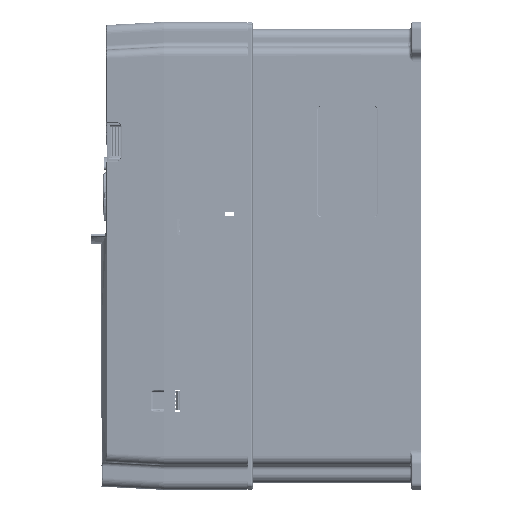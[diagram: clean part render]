
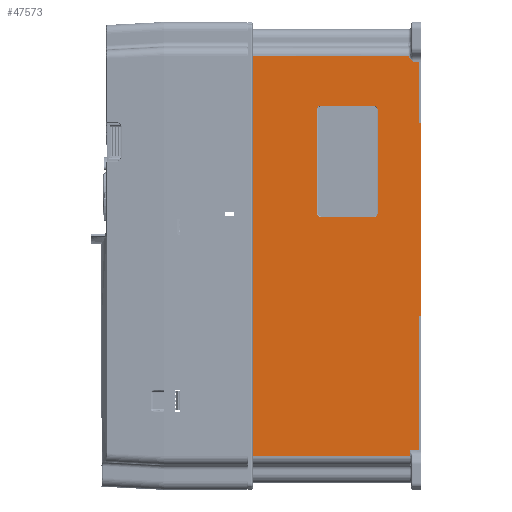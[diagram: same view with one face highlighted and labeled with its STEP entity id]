
A CAD part, left-side view. The second image highlights one B-rep face of the part: STEP entity #47573.
In plain terms, the highlighted planar face has unit normal (-1, 0, 0).
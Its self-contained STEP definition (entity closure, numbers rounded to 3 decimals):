
#335=CARTESIAN_POINT('',(-80.,-63.,29.));
#336=DIRECTION('',(1.,0.,0.));
#337=DIRECTION('',(0.,-1.,0.));
#338=AXIS2_PLACEMENT_3D('',#335,#336,#337);
#344=DIRECTION('',(0.,0.,-1.));
#345=VECTOR('',#344,71.4);
#346=CARTESIAN_POINT('',(-80.,-65.458,100.4));
#347=LINE('',#346,#345);
#351=CARTESIAN_POINT('',(-80.,-63.,100.4));
#352=DIRECTION('',(1.,0.,0.));
#353=DIRECTION('',(0.,0.,1.));
#354=AXIS2_PLACEMENT_3D('',#351,#352,#353);
#359=DIRECTION('',(0.,-1.,0.));
#360=VECTOR('',#359,36.4);
#361=CARTESIAN_POINT('',(-80.,-26.6,102.858));
#362=LINE('',#361,#360);
#366=CARTESIAN_POINT('',(-80.,-26.6,100.4));
#367=DIRECTION('',(1.,0.,0.));
#368=DIRECTION('',(0.,1.,0.));
#369=AXIS2_PLACEMENT_3D('',#366,#367,#368);
#374=DIRECTION('',(0.,0.,1.));
#375=VECTOR('',#374,71.4);
#376=CARTESIAN_POINT('',(-80.,-24.142,29.));
#377=LINE('',#376,#375);
#381=CARTESIAN_POINT('',(-80.,-26.6,29.));
#382=DIRECTION('',(1.,0.,0.));
#383=DIRECTION('',(0.,0.,-1.));
#384=AXIS2_PLACEMENT_3D('',#381,#382,#383);
#389=DIRECTION('',(0.,1.,0.));
#390=VECTOR('',#389,36.4);
#391=CARTESIAN_POINT('',(-80.,-63.,26.542));
#392=LINE('',#391,#390);
#396=DIRECTION('',(0.,0.,-1.));
#397=VECTOR('',#396,4.071);
#398=CARTESIAN_POINT('',(-80.,-87.5,
-132.929));
#399=LINE('',#398,#397);
#403=DIRECTION('',(0.,-1.,0.));
#404=VECTOR('',#403,107.5);
#405=CARTESIAN_POINT('',(-80.,20.,-137.));
#406=LINE('',#405,#404);
#410=DIRECTION('',(0.,0.,1.));
#411=VECTOR('',#410,274.);
#412=CARTESIAN_POINT('',(-80.,20.,-137.));
#413=LINE('',#412,#411);
#417=DIRECTION('',(0.,-1.,0.));
#418=VECTOR('',#417,106.671);
#419=CARTESIAN_POINT('',(-80.,20.,137.));
#420=LINE('',#419,#418);
#424=CARTESIAN_POINT('',(-80.,-87.069,135.929));
#425=CARTESIAN_POINT('',(-80.,-86.985,136.092));
#426=CARTESIAN_POINT('',(-80.,-86.835,136.434));
#427=CARTESIAN_POINT('',(-80.,-86.72,136.806));
#428=CARTESIAN_POINT('',(-80.,-86.671,137.));
#433=CARTESIAN_POINT('',(-80.,-88.5,133.958));
#434=CARTESIAN_POINT('',(-80.,-88.348,134.124));
#435=CARTESIAN_POINT('',(-80.,-88.058,134.453));
#436=CARTESIAN_POINT('',(-80.,-87.675,134.941));
#437=CARTESIAN_POINT('',(-80.,-87.34,135.434));
#438=CARTESIAN_POINT('',(-80.,-87.153,135.764));
#439=CARTESIAN_POINT('',(-80.,-87.069,135.929));
#444=DIRECTION('',(0.,-1.,0.));
#445=VECTOR('',#444,4.);
#446=CARTESIAN_POINT('',(-80.,-89.5,132.929));
#447=LINE('',#446,#445);
#451=DIRECTION('',(0.,0.,1.));
#452=VECTOR('',#451,42.129);
#453=CARTESIAN_POINT('',(-80.,-93.5,90.8));
#454=LINE('',#453,#452);
#458=DIRECTION('',(0.,1.,0.));
#459=VECTOR('',#458,1.5);
#460=CARTESIAN_POINT('',(-80.,-95.,90.8));
#461=LINE('',#460,#459);
#465=DIRECTION('',(0.,1.,0.));
#466=VECTOR('',#465,1.5);
#467=CARTESIAN_POINT('',(-80.,-95.,-40.8));
#468=LINE('',#467,#466);
#472=DIRECTION('',(0.,0.,1.));
#473=VECTOR('',#472,92.129);
#474=CARTESIAN_POINT('',(-80.,-93.5,-132.929));
#475=LINE('',#474,#473);
#641=DIRECTION('',(0.,-1.,0.));
#642=VECTOR('',#641,6.);
#643=CARTESIAN_POINT('',(-80.,-87.5,
-132.929));
#644=LINE('',#643,#642);
#6869=CARTESIAN_POINT('',(-80.,-89.5,132.929));
#6870=CARTESIAN_POINT('',(-80.,-89.34,133.089));
#6871=CARTESIAN_POINT('',(-80.,-89.012,
133.417));
#6872=CARTESIAN_POINT('',(-80.,-88.671,
133.772));
#6873=CARTESIAN_POINT('',(-80.,-88.5,
133.958));
#27333=DIRECTION('',(0.,0.,1.));
#27334=VECTOR('',#27333,131.6);
#27335=CARTESIAN_POINT('',(-80.,-95.,-40.8));
#27336=LINE('',#27335,#27334);
#41381=CARTESIAN_POINT('',(-80.,-93.5,-132.929));
#41382=CARTESIAN_POINT('',(-80.,-93.5,-40.8));
#41383=VERTEX_POINT('',#41381);
#41384=VERTEX_POINT('',#41382);
#41385=CARTESIAN_POINT('',(-80.,-93.5,90.8));
#41386=CARTESIAN_POINT('',(-80.,-93.5,132.929));
#41387=VERTEX_POINT('',#41385);
#41388=VERTEX_POINT('',#41386);
#42589=CARTESIAN_POINT('',(-80.,-95.,-40.8));
#42590=VERTEX_POINT('',#42589);
#42593=CARTESIAN_POINT('',(-80.,-95.,90.8));
#42594=VERTEX_POINT('',#42593);
#43629=CARTESIAN_POINT('',(-80.,-89.5,132.929));
#43630=VERTEX_POINT('',#43629);
#43787=CARTESIAN_POINT('',(-80.,-87.5,
-132.929));
#43788=CARTESIAN_POINT('',(-80.,-87.5,-137.));
#43789=VERTEX_POINT('',#43787);
#43790=VERTEX_POINT('',#43788);
#44151=CARTESIAN_POINT('',(-80.,-65.458,29.));
#44152=CARTESIAN_POINT('',(-80.,-63.,26.542));
#44153=VERTEX_POINT('',#44151);
#44154=VERTEX_POINT('',#44152);
#44159=CARTESIAN_POINT('',(-80.,-26.6,26.542));
#44160=VERTEX_POINT('',#44159);
#44163=CARTESIAN_POINT('',(-80.,-24.142,29.));
#44164=VERTEX_POINT('',#44163);
#44167=CARTESIAN_POINT('',(-80.,-24.142,100.4));
#44168=VERTEX_POINT('',#44167);
#44171=CARTESIAN_POINT('',(-80.,-26.6,102.858));
#44172=VERTEX_POINT('',#44171);
#44175=CARTESIAN_POINT('',(-80.,-63.,102.858));
#44176=VERTEX_POINT('',#44175);
#44179=CARTESIAN_POINT('',(-80.,-65.458,100.4));
#44180=VERTEX_POINT('',#44179);
#46226=CARTESIAN_POINT('',(-80.,20.,-137.));
#46227=CARTESIAN_POINT('',(-80.,20.,137.));
#46228=VERTEX_POINT('',#46226);
#46229=VERTEX_POINT('',#46227);
#46369=CARTESIAN_POINT('',(-80.,-86.671,
137.));
#46370=VERTEX_POINT('',#46369);
#47365=VERTEX_POINT('',#433);
#47366=VERTEX_POINT('',#439);
#47520=CARTESIAN_POINT('',(-80.,-95.,-155.));
#47521=DIRECTION('',(-1.,0.,0.));
#47522=DIRECTION('',(0.,0.,1.));
#47523=AXIS2_PLACEMENT_3D('',#47520,#47521,#47522);
#47524=PLANE('',#47523);
#47526=ORIENTED_EDGE('',*,*,#47525,.T.);
#47528=ORIENTED_EDGE('',*,*,#47527,.F.);
#47530=ORIENTED_EDGE('',*,*,#47529,.T.);
#47532=ORIENTED_EDGE('',*,*,#47531,.T.);
#47534=ORIENTED_EDGE('',*,*,#47533,.F.);
#47536=ORIENTED_EDGE('',*,*,#47535,.F.);
#47538=ORIENTED_EDGE('',*,*,#47537,.F.);
#47540=ORIENTED_EDGE('',*,*,#47539,.T.);
#47542=ORIENTED_EDGE('',*,*,#47541,.F.);
#47544=ORIENTED_EDGE('',*,*,#47543,.F.);
#47546=ORIENTED_EDGE('',*,*,#47545,.F.);
#47548=ORIENTED_EDGE('',*,*,#47547,.T.);
#47550=ORIENTED_EDGE('',*,*,#47549,.F.);
#47552=ORIENTED_EDGE('',*,*,#47551,.F.);
#47553=EDGE_LOOP('',(#47526,#47528,#47530,#47532,#47534,#47536,#47538,#47540,
#47542,#47544,#47546,#47548,#47550,#47552));
#47554=FACE_OUTER_BOUND('',#47553,.F.);
#47556=ORIENTED_EDGE('',*,*,#47555,.F.);
#47558=ORIENTED_EDGE('',*,*,#47557,.F.);
#47560=ORIENTED_EDGE('',*,*,#47559,.F.);
#47562=ORIENTED_EDGE('',*,*,#47561,.F.);
#47564=ORIENTED_EDGE('',*,*,#47563,.F.);
#47566=ORIENTED_EDGE('',*,*,#47565,.F.);
#47568=ORIENTED_EDGE('',*,*,#47567,.F.);
#47570=ORIENTED_EDGE('',*,*,#47569,.F.);
#47571=EDGE_LOOP('',(#47556,#47558,#47560,#47562,#47564,#47566,#47568,#47570));
#47572=FACE_BOUND('',#47571,.F.);
#339=CIRCLE('',#338,2.458);
#355=CIRCLE('',#354,2.458);
#370=CIRCLE('',#369,2.458);
#385=CIRCLE('',#384,2.458);
#429=B_SPLINE_CURVE_WITH_KNOTS('',3,(#424,#425,#426,#427,#428),.UNSPECIFIED.,
.F.,.F.,(4,1,4),(0.,0.5,1.),.UNSPECIFIED.);
#440=B_SPLINE_CURVE_WITH_KNOTS('',3,(#433,#434,#435,#436,#437,#438,#439),
.UNSPECIFIED.,.F.,.F.,(4,1,1,1,4),(0.,0.25,0.5,0.75,1.),
.UNSPECIFIED.);
#6874=B_SPLINE_CURVE_WITH_KNOTS('',3,(#6869,#6870,#6871,#6872,#6873),
.UNSPECIFIED.,.F.,.F.,(4,1,4),(0.,0.5,1.),.UNSPECIFIED.);
#47525=EDGE_CURVE('',#43789,#43790,#399,.T.);
#47527=EDGE_CURVE('',#46228,#43790,#406,.T.);
#47529=EDGE_CURVE('',#46228,#46229,#413,.T.);
#47531=EDGE_CURVE('',#46229,#46370,#420,.T.);
#47533=EDGE_CURVE('',#47366,#46370,#429,.T.);
#47535=EDGE_CURVE('',#47365,#47366,#440,.T.);
#47537=EDGE_CURVE('',#43630,#47365,#6874,.T.);
#47539=EDGE_CURVE('',#43630,#41388,#447,.T.);
#47541=EDGE_CURVE('',#41387,#41388,#454,.T.);
#47543=EDGE_CURVE('',#42594,#41387,#461,.T.);
#47545=EDGE_CURVE('',#42590,#42594,#27336,.T.);
#47547=EDGE_CURVE('',#42590,#41384,#468,.T.);
#47549=EDGE_CURVE('',#41383,#41384,#475,.T.);
#47551=EDGE_CURVE('',#43789,#41383,#644,.T.);
#47555=EDGE_CURVE('',#44153,#44154,#339,.T.);
#47557=EDGE_CURVE('',#44180,#44153,#347,.T.);
#47559=EDGE_CURVE('',#44176,#44180,#355,.T.);
#47561=EDGE_CURVE('',#44172,#44176,#362,.T.);
#47563=EDGE_CURVE('',#44168,#44172,#370,.T.);
#47565=EDGE_CURVE('',#44164,#44168,#377,.T.);
#47567=EDGE_CURVE('',#44160,#44164,#385,.T.);
#47569=EDGE_CURVE('',#44154,#44160,#392,.T.);
#47573=ADVANCED_FACE('',(#47554,#47572),#47524,.T.);
